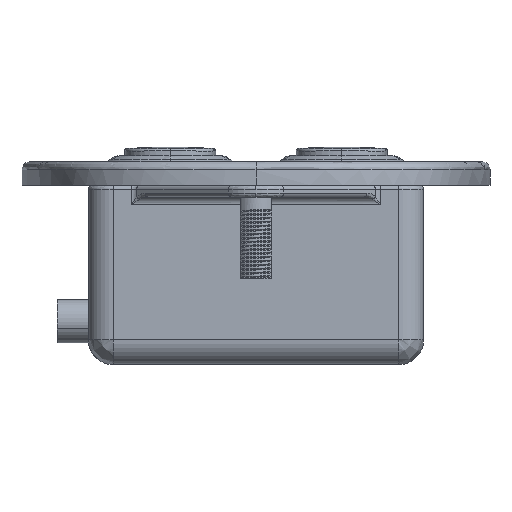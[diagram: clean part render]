
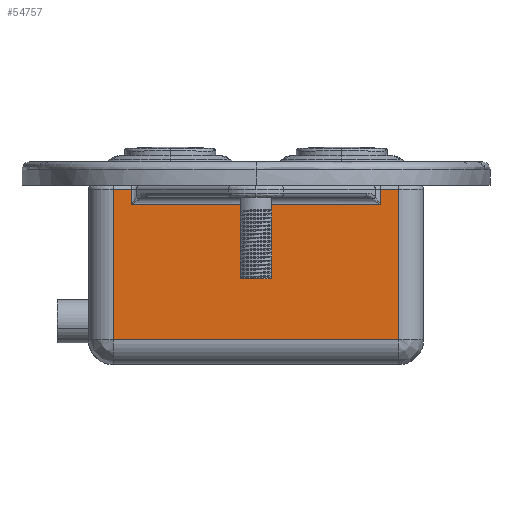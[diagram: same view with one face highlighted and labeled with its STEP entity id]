
A CAD part, left-side view. The second image highlights one B-rep face of the part: STEP entity #54757.
In plain terms, the highlighted planar face has unit normal (-1, 0, 0).
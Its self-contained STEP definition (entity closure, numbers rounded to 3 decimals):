
#811 = CARTESIAN_POINT ( 'NONE',  ( -48., -15.985, 21.3 ) ) ;
#1184 = DIRECTION ( 'NONE',  ( 0., 0., 1. ) ) ;
#10089 = CARTESIAN_POINT ( 'NONE',  ( -48., 0., 21.3 ) ) ;
#12467 = LINE ( 'NONE', #111480, #87854 ) ;
#13664 = CARTESIAN_POINT ( 'NONE',  ( -48., 21.5, 19.3 ) ) ;
#15852 = DIRECTION ( 'NONE',  ( 0., 1., 0. ) ) ;
#19641 = CARTESIAN_POINT ( 'NONE',  ( -48., -18.3, 21.3 ) ) ;
#21339 = CARTESIAN_POINT ( 'NONE',  ( -48., -15.985, 19.3 ) ) ;
#23986 = DIRECTION ( 'NONE',  ( 0., 0., -1. ) ) ;
#25279 = EDGE_CURVE ( 'NONE', #47367, #46822, #107902, .T. ) ;
#27358 = DIRECTION ( 'NONE',  ( 1., 0., 0. ) ) ;
#28487 = VERTEX_POINT ( 'NONE', #21339 ) ;
#28527 = VERTEX_POINT ( 'NONE', #19641 ) ;
#31530 = LINE ( 'NONE', #120686, #113137 ) ;
#37797 = DIRECTION ( 'NONE',  ( 0., 0., -1. ) ) ;
#38672 = VECTOR ( 'NONE', #23986, 1000. ) ;
#42765 = CARTESIAN_POINT ( 'NONE',  ( -48., 18.3, 2. ) ) ;
#42795 = ORIENTED_EDGE ( 'NONE', *, *, #123529, .F. ) ;
#46822 = VERTEX_POINT ( 'NONE', #164266 ) ;
#47367 = VERTEX_POINT ( 'NONE', #42765 ) ;
#48522 = CARTESIAN_POINT ( 'NONE',  ( -48., 15.985, 21.8 ) ) ;
#51263 = DIRECTION ( 'NONE',  ( 0., -1., 0. ) ) ;
#52566 = EDGE_CURVE ( 'NONE', #83698, #47367, #31530, .T. ) ;
#53275 = ORIENTED_EDGE ( 'NONE', *, *, #101021, .F. ) ;
#54757 = ADVANCED_FACE ( 'NONE', ( #80443 ), #131652, .F. ) ;
#55051 = AXIS2_PLACEMENT_3D ( 'NONE', #92865, #27358, #103716 ) ;
#58043 = VECTOR ( 'NONE', #51263, 1000. ) ;
#69003 = LINE ( 'NONE', #122321, #89449 ) ;
#74381 = LINE ( 'NONE', #13664, #58043 ) ;
#76948 = CARTESIAN_POINT ( 'NONE',  ( -48., 18.3, 21.8 ) ) ;
#79128 = VECTOR ( 'NONE', #153744, 1000. ) ;
#79390 = ORIENTED_EDGE ( 'NONE', *, *, #168244, .F. ) ;
#80443 = FACE_OUTER_BOUND ( 'NONE', #115067, .T. ) ;
#80956 = ORIENTED_EDGE ( 'NONE', *, *, #25279, .F. ) ;
#81746 = CARTESIAN_POINT ( 'NONE',  ( -48., 15.985, 19.3 ) ) ;
#83698 = VERTEX_POINT ( 'NONE', #161432 ) ;
#87854 = VECTOR ( 'NONE', #125186, 1000. ) ;
#89449 = VECTOR ( 'NONE', #124594, 1000. ) ;
#91403 = LINE ( 'NONE', #10089, #79128 ) ;
#92865 = CARTESIAN_POINT ( 'NONE',  ( -48., 21.5, 21.8 ) ) ;
#99204 = EDGE_CURVE ( 'NONE', #28527, #83698, #120171, .T. ) ;
#101021 = EDGE_CURVE ( 'NONE', #117993, #28527, #91403, .T. ) ;
#101905 = VECTOR ( 'NONE', #1184, 1000. ) ;
#103296 = CARTESIAN_POINT ( 'NONE',  ( -48., -18.3, 21.8 ) ) ;
#103716 = DIRECTION ( 'NONE',  ( 0., 1., 0. ) ) ;
#105105 = ORIENTED_EDGE ( 'NONE', *, *, #99204, .F. ) ;
#106382 = VERTEX_POINT ( 'NONE', #81746 ) ;
#107902 = LINE ( 'NONE', #76948, #101905 ) ;
#111480 = CARTESIAN_POINT ( 'NONE',  ( -48., -15.985, 21.8 ) ) ;
#112898 = VERTEX_POINT ( 'NONE', #155699 ) ;
#113137 = VECTOR ( 'NONE', #15852, 1000. ) ;
#115067 = EDGE_LOOP ( 'NONE', ( #42795, #80956, #116043, #105105, #53275, #79390, #124199, #148033 ) ) ;
#116043 = ORIENTED_EDGE ( 'NONE', *, *, #52566, .F. ) ;
#117993 = VERTEX_POINT ( 'NONE', #811 ) ;
#120171 = LINE ( 'NONE', #103296, #122140 ) ;
#120686 = CARTESIAN_POINT ( 'NONE',  ( -48., 21.5, 2. ) ) ;
#122140 = VECTOR ( 'NONE', #37797, 1000. ) ;
#122321 = CARTESIAN_POINT ( 'NONE',  ( -48., 0., 21.3 ) ) ;
#123529 = EDGE_CURVE ( 'NONE', #46822, #112898, #69003, .T. ) ;
#124199 = ORIENTED_EDGE ( 'NONE', *, *, #148027, .F. ) ;
#124594 = DIRECTION ( 'NONE',  ( 0., -1., 0. ) ) ;
#125186 = DIRECTION ( 'NONE',  ( 0., 0., 1. ) ) ;
#126349 = LINE ( 'NONE', #48522, #38672 ) ;
#131652 = PLANE ( 'NONE',  #55051 ) ;
#138766 = EDGE_CURVE ( 'NONE', #112898, #106382, #126349, .T. ) ;
#148027 = EDGE_CURVE ( 'NONE', #106382, #28487, #74381, .T. ) ;
#148033 = ORIENTED_EDGE ( 'NONE', *, *, #138766, .F. ) ;
#153744 = DIRECTION ( 'NONE',  ( 0., -1., 0. ) ) ;
#155699 = CARTESIAN_POINT ( 'NONE',  ( -48., 15.985, 21.3 ) ) ;
#161432 = CARTESIAN_POINT ( 'NONE',  ( -48., -18.3, 2. ) ) ;
#164266 = CARTESIAN_POINT ( 'NONE',  ( -48., 18.3, 21.3 ) ) ;
#168244 = EDGE_CURVE ( 'NONE', #28487, #117993, #12467, .T. ) ;
